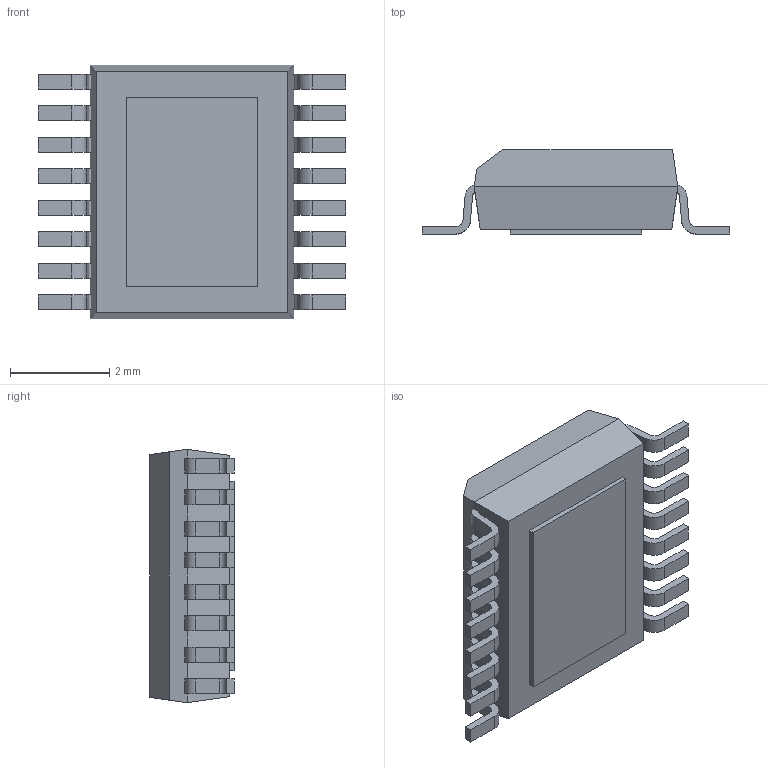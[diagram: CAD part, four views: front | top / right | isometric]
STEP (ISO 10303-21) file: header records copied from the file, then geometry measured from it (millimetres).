
FILE_DESCRIPTION (( 'STEP AP214' ), '1' );
FILE_NAME ('SOP63P600X170-16TP2_MO-137.BB-1.STEP', '2014-10-28T13:23:14', ( 'Tester2' ), ( '' ), 'SwSTEP 2.0', 'SolidWorks 2012', '' );
FILE_SCHEMA (( 'AUTOMOTIVE_DESIGN' ));
Length unit declared in the file: millimetre
Products named in the file (1): SOP63P600X170-16TP2_MO-137.BB-1
Bounding box: 6.2 x 1.7 x 5.1 mm (x, y, z)
Volume: 33.6 mm3; surface area: 91.3 mm2
Topology: 1 solids, 1 shells, 195 faces, 569 edges, 378 vertices
Faces by surface type: plane 129, cylinder 66
Entity records: 8501 total; most frequent: CARTESIAN_POINT 1143, ORIENTED_EDGE 1138, DIRECTION 1093, EDGE_CURVE 569, LINE 437, VECTOR 437, VERTEX_POINT 378, AXIS2_PLACEMENT_3D 328
